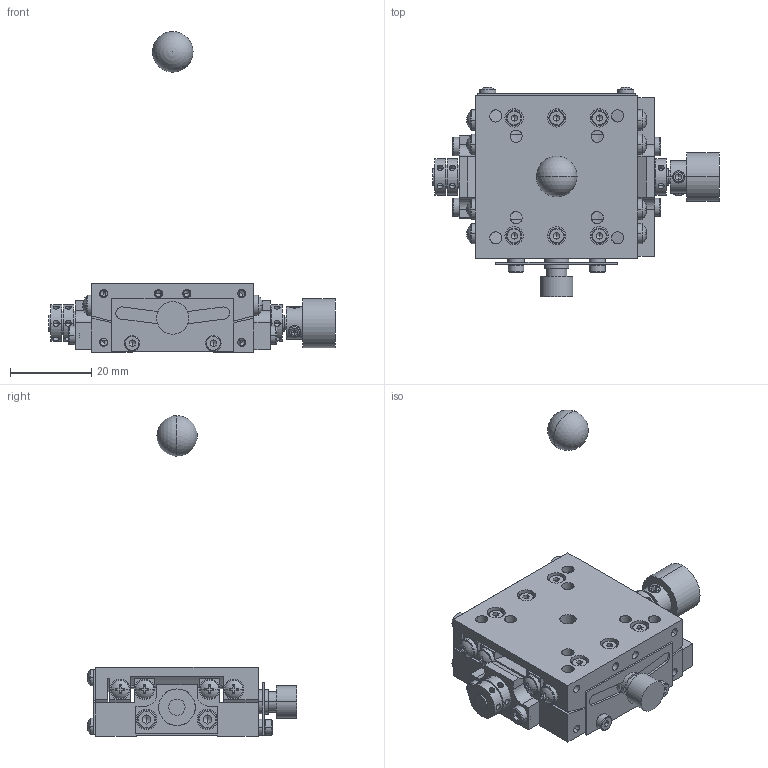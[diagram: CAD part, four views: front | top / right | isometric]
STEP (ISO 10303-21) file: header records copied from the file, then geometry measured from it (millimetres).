
FILE_DESCRIPTION (( 'STEP AP203' ), '1' );
FILE_NAME ('SH04B-RM-R.STEP', '2015-05-12T02:53:33', ( '' ), ( '' ), 'SwSTEP 2.0', 'SolidWorks 2011', '' );
FILE_SCHEMA (( 'CONFIG_CONTROL_DESIGN' ));
Length unit declared in the file: millimetre
Products named in the file (4): SH04B-RM-R; rotation-center-1; table-8; base-8
Assembly tree (3 placements, depth 2):
  SH04B-RM-R
    rotation-center-1
    base-8
    table-8
Bounding box: 70.5 x 51.59 x 79 mm (x, y, z)
Volume: 27142.7 mm3; surface area: 19474.5 mm2
Topology: 7 solids, 49 shells, 1770 faces, 4312 edges, 2624 vertices
Faces by surface type: plane 894, cylinder 572, cone 256, sphere 26, torus 16, bspline 6
Entity records: 54873 total; most frequent: CARTESIAN_POINT 13011, DIRECTION 8919, ORIENTED_EDGE 8366, EDGE_CURVE 4183, AXIS2_PLACEMENT_3D 3256, VERTEX_POINT 2617, LINE 2407, VECTOR 2407
